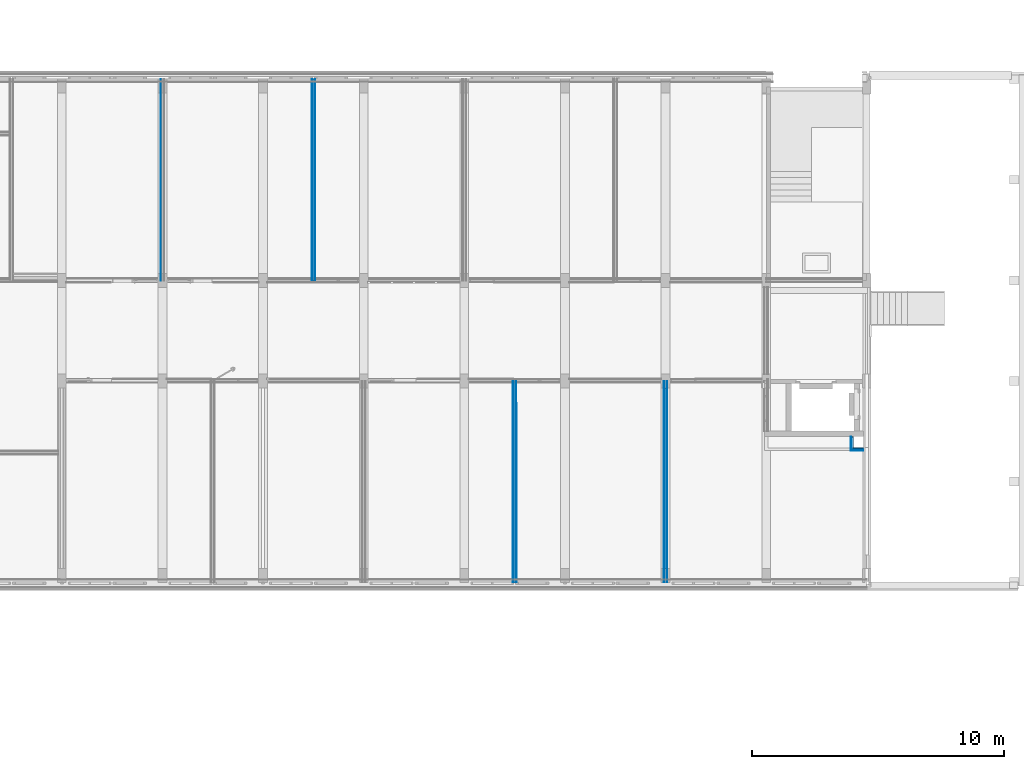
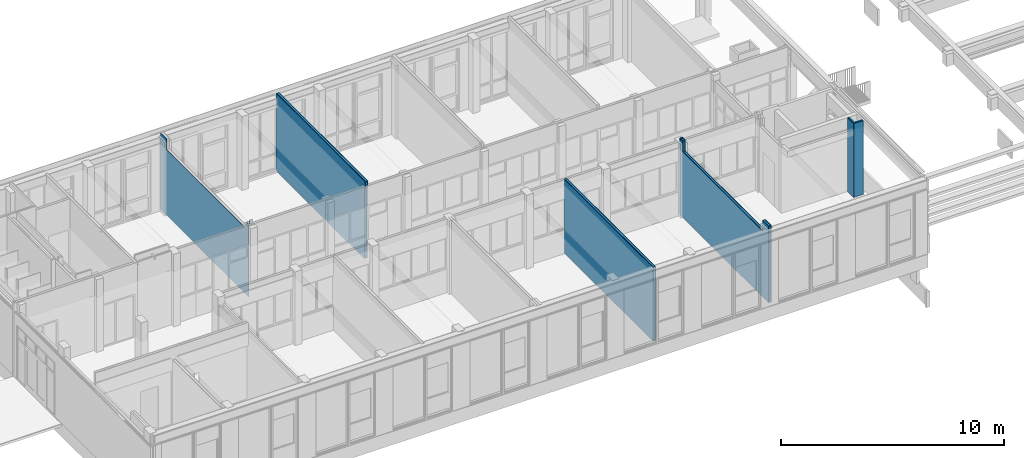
# One storey, part 25 of 54: 24 building element parts, 6 elements without a shape of their own.
"""IFC2X3 building model written with IfcOpenShell, lengths in millimetres."""

from ifc_helpers import new_model, entity, si_unit, converted_unit, derived_unit, money_unit, direction, frame, origin_with_axes, place, context, subcontext, project, spatial, faceted_brep, material, type_object, element, aggregate, save


model = new_model("IFC2X3")

# Units and contexts
model_context = context("Model", 3, precision=0.01, world=origin_with_axes(), true_north=direction((0.0, 1.0)))
body_context = subcontext(model_context, "Body", "Model", "MODEL_VIEW")
ifc_project = project(units=[si_unit("LENGTHUNIT", "METRE", prefix="MILLI"), si_unit("AREAUNIT", "SQUARE_METRE"), si_unit("VOLUMEUNIT", "CUBIC_METRE"), converted_unit("PLANEANGLEUNIT", "DEGREE", entity("IfcPlaneAngleMeasure", 0.0174532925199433), si_unit("PLANEANGLEUNIT", "RADIAN"), dimensions=[0, 0, 0, 0, 0, 0, 0]), money_unit("EUR"), converted_unit("TIMEUNIT", "Year", entity("IfcTimeMeasure", 31557600.0), si_unit("TIMEUNIT", "SECOND"), dimensions=[0, 0, 1, 0, 0, 0, 0]), si_unit("MASSUNIT", "GRAM", prefix="KILO"), si_unit("THERMODYNAMICTEMPERATUREUNIT", "DEGREE_CELSIUS"), si_unit("LUMINOUSINTENSITYUNIT", "LUMEN"), si_unit("ENERGYUNIT", "JOULE", prefix="MEGA"), derived_unit("THERMALCONDUCTANCEUNIT", [(si_unit("POWERUNIT", "WATT"), 1), (si_unit("LENGTHUNIT", "METRE"), -1), (si_unit("THERMODYNAMICTEMPERATUREUNIT", "KELVIN"), -1)]), derived_unit("SPECIFICHEATCAPACITYUNIT", [(si_unit("ENERGYUNIT", "JOULE"), 1), (si_unit("MASSUNIT", "GRAM", prefix="KILO"), -1), (si_unit("THERMODYNAMICTEMPERATUREUNIT", "KELVIN"), -1)]), derived_unit("MASSDENSITYUNIT", [(si_unit("MASSUNIT", "GRAM", prefix="KILO"), 1), (si_unit("VOLUMEUNIT", "CUBIC_METRE"), -1)])], contexts=[model_context])

# Site, building, storey
site_placement = place(None, origin_with_axes())
site = spatial("IfcSite", under=ifc_project, at=site_placement, Name="<site naam>", CompositionType="ELEMENT")
building_placement = place(site_placement, origin_with_axes())
building = spatial("IfcBuilding", under=site, at=building_placement, Name="<Naam gebouw>", CompositionType="ELEMENT")
storey_placement = place(building_placement, frame((0.0, 0.0, 8500.0), z_axis=(0.0, 0.0, 1.0), x_axis=(1.0, 0.0, 0.0)))
storey = spatial("IfcBuildingStorey", under=building, at=storey_placement, Name="02 2e verdieping", CompositionType="ELEMENT", Elevation=8500.0)

# Wall, building element parts
wall_type_1 = type_object("IfcWallType", Name="MS-01 GF 150 ECO DGS/2.100.2.A 150", PredefinedType="NOTDEFINED")
wall_1_placement = place(storey_placement, frame((37998.74866698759, 7998.481530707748, 0.0), z_axis=(0.0, 0.0, 1.0), x_axis=(0.0001545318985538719, -0.9999999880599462, 0.0)))
wall_1 = element("IfcWall", 1, at=wall_1_placement, inside=storey, type_object=wall_type_1, Name="22_Binnenwand_MS-01")
ifc_material_1 = material(Name="gipsplaat")
building_element_part_1_placement = place(wall_1_placement, origin_with_axes())
building_element_part_1 = element("IfcBuildingElementPart", 2, at=building_element_part_1_placement, material=ifc_material_1, Name="gipsplaat", context=body_context, shape_type="Brep", body=[
    faceted_brep([(0.0, 62.50000000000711, 4050.000014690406), (7998.48162621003, 62.50000000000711, 4050.000014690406), (7998.48162621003, 62.50000000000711, 0.0), (0.0, 62.50000000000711, 0.0), (7998.481626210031, 49.99999999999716, 4050.000014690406), (0.0, 50.00000000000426, 4050.000014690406), (7998.481626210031, 49.99999999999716, 0.0), (0.0, 50.00000000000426, 0.0)], [[[0, 1, 2, 3]], [[4, 1, 0, 5]], [[1, 4, 6, 2]], [[3, 2, 6, 7]], [[5, 0, 3, 7]], [[4, 5, 7, 6]]]),
])
ifc_material_2 = material(Name="isolatie_steenwol LSW")
building_element_part_2_placement = place(wall_1_placement, origin_with_axes())
building_element_part_2 = element("IfcBuildingElementPart", 3, at=building_element_part_2_placement, material=ifc_material_2, Name="isolatie_steenwol LSW", context=body_context, shape_type="Brep", body=[
    faceted_brep([(0.0, 50.00000000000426, 4050.000014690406), (7998.481626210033, 49.99999999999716, 4050.000014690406), (7998.481626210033, 49.99999999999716, 0.0), (0.0, 50.00000000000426, 0.0), (7998.481626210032, -49.99999999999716, 4050.000014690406), (0.0, -49.99999999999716, 4050.000014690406), (7998.481626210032, -49.99999999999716, 0.0), (0.0, -49.99999999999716, 0.0)], [[[0, 1, 2, 3]], [[4, 1, 0, 5]], [[1, 4, 6, 2]], [[3, 2, 6, 7]], [[5, 0, 3, 7]], [[4, 5, 7, 6]]]),
])
building_element_part_3_placement = place(wall_1_placement, origin_with_axes())
building_element_part_3 = element("IfcBuildingElementPart", 4, at=building_element_part_3_placement, material=ifc_material_1, Name="gipsplaat", context=body_context, shape_type="Brep", body=[
    faceted_brep([(0.0, -49.99999999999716, 4050.000014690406), (7998.481626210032, -49.99999999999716, 4050.000014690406), (7998.481626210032, -49.99999999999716, 0.0), (0.0, -49.99999999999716, 0.0), (7998.481626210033, -62.50000000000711, 4050.000014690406), (0.0, -62.5, 4050.000014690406), (7998.481626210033, -62.50000000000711, 0.0), (0.0, -62.5, 0.0)], [[[0, 1, 2, 3]], [[4, 1, 0, 5]], [[1, 4, 6, 2]], [[3, 2, 6, 7]], [[5, 0, 3, 7]], [[4, 5, 7, 6]]]),
])
building_element_part_4_placement = place(wall_1_placement, origin_with_axes())
building_element_part_4 = element("IfcBuildingElementPart", 5, at=building_element_part_4_placement, material=ifc_material_1, Name="gipsplaat", context=body_context, shape_type="Brep", body=[
    faceted_brep([(0.0, -62.5, 4050.000014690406), (7998.481626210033, -62.50000000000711, 4050.000014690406), (7998.481626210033, -62.50000000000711, 0.0), (0.0, -62.5, 0.0), (7998.481626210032, -75.00000000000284, 4050.000014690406), (0.0, -75.00000000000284, 4050.000014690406), (7998.481626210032, -75.00000000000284, 0.0), (0.0, -75.00000000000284, 0.0)], [[[0, 1, 2, 3]], [[4, 1, 0, 5]], [[1, 4, 6, 2]], [[3, 2, 6, 7]], [[5, 0, 3, 7]], [[4, 5, 7, 6]]]),
])

wall_2_placement = place(storey_placement, frame((43999.99785215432, 7999.408915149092, 0.0), z_axis=(0.0, 0.0, 1.0), x_axis=(7.827171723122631e-06, -0.9999999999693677, 0.0)))
wall_2 = element("IfcWall", 6, at=wall_2_placement, inside=storey, type_object=wall_type_1, Name="22_Binnenwand_MS-01")
building_element_part_5_placement = place(wall_2_placement, origin_with_axes())
building_element_part_5 = element("IfcBuildingElementPart", 7, at=building_element_part_5_placement, material=ifc_material_1, Name="gipsplaat", context=body_context, shape_type="Brep", body=[
    faceted_brep([(0.0, 62.50000000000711, 4200.000014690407), (0.0, 74.99999999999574, 4200.000014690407), (0.0, 74.99999999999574, 0.0), (0.0, 62.50000000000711, 0.0), (4.955652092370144, 75.00000000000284, 4200.000014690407), (4.955554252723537, 62.50000000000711, 4200.000014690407), (93.45555425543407, 62.5, 4200.000014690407), (93.45565209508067, 74.99999999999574, 4200.000014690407), (93.45565209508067, 74.99999999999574, 4135.38538922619), (109.455652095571, 74.99999999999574, 4135.38538922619), (109.455652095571, 74.99999999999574, 4200.000014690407), (274.409502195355, 74.99999999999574, 4200.000014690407), (274.409502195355, 74.99999999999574, 3610.000000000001), (7449.409502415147, 74.99999999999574, 3610.000000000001), (7449.409502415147, 74.99999999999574, 4200.000014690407), (7999.409502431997, 74.99999999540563, 4200.000014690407), (7999.408915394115, 75.00000000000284, 0.0), (7999.408915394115, 62.49999999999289, 0.0), (7999.40940459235, 62.49999999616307, 4200.000014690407), (7449.409404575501, 62.5, 4200.000014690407), (7449.409404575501, 62.5, 3610.000000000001), (274.4094043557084, 62.5, 3610.000000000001), (274.4094043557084, 62.5, 4200.000014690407), (109.4555542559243, 62.5, 4200.000014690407), (109.4555542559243, 62.5, 4135.38538922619), (93.45555425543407, 62.5, 4135.38538922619)], [[[0, 1, 2, 3]], [[4, 1, 0, 5, 6, 7]], [[1, 4, 7, 8, 9, 10, 11, 12, 13, 14, 15, 16, 2]], [[2, 16, 17, 3]], [[5, 0, 3, 17, 18, 19, 20, 21, 22, 23, 24, 25, 6]], [[8, 7, 6, 25]], [[25, 24, 9, 8]], [[24, 23, 10, 9]], [[22, 11, 10, 23]], [[21, 12, 11, 22]], [[20, 13, 12, 21]], [[19, 14, 13, 20]], [[18, 15, 14, 19]], [[16, 15, 18, 17]]]),
])
building_element_part_6_placement = place(wall_2_placement, origin_with_axes())
building_element_part_6 = element("IfcBuildingElementPart", 8, at=building_element_part_6_placement, material=ifc_material_2, Name="isolatie_steenwol LSW", context=body_context, shape_type="Brep", body=[
    faceted_brep([(0.0, 4.752147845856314, 4200.000014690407), (0.0, 50.00000000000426, 4200.000014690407), (0.0, 50.00000000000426, 0.0), (0.0, -49.99999999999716, 0.0), (0.0, -49.99999999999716, 4200.000014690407), (0.0, -4.747852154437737, 4200.000014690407), (0.0, -4.747852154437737, 4135.38538922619), (0.0, 4.752147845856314, 4135.38538922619), (4.955456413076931, 50.00000000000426, 4200.000014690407), (4.955102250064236, 4.752109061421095, 4200.000014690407), (93.45510224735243, 4.751416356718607, 4200.000014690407), (93.45545641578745, 50.00000000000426, 4200.000014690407), (93.45545641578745, 50.00000000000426, 4135.38538922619), (109.4554564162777, 49.99999999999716, 4135.38538922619), (109.4554564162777, 49.99999999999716, 4200.000014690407), (274.4093065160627, 49.99999999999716, 4200.000014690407), (274.4093065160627, 49.99999999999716, 3610.000000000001), (7449.409306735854, 49.99999999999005, 3610.000000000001), (7449.409306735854, 49.99999999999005, 4200.000014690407), (7999.409306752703, 49.99999999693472, 4200.000014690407), (7999.408915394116, 49.99999999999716, 0.0), (7999.408915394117, -50.00000000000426, 0.0), (4.954673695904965, -49.99999999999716, 4200.000014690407), (7999.408524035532, -49.99999999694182, 4200.000014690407), (7449.408524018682, -50.00000000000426, 4200.000014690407), (7449.408524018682, -50.00000000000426, 3610.000000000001), (274.4085237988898, -50.00000000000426, 3610.000000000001), (274.4085237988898, -50.00000000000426, 4200.000014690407), (109.4546736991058, -50.00000000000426, 4200.000014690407), (109.4546736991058, -50.00000000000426, 4135.38538922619), (93.4546736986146, -50.00000000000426, 4135.38538922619), (93.4546736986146, -50.00000000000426, 4200.000014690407), (4.955027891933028, -4.747890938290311, 4200.000014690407), (93.45502788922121, -4.748583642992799, 4200.000014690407), (93.45502788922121, -4.748583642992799, 4135.38538922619), (93.45510224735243, 4.751416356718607, 4135.38538922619)], [[[0, 1, 2, 3, 4, 5, 6, 7]], [[8, 1, 0, 9, 10, 11]], [[1, 8, 11, 12, 13, 14, 15, 16, 17, 18, 19, 20, 2]], [[20, 21, 3, 2]], [[22, 4, 3, 21, 23, 24, 25, 26, 27, 28, 29, 30, 31]], [[32, 5, 4, 22, 31, 33]], [[5, 32, 33, 34, 6]], [[30, 29, 13, 12, 35, 7, 6, 34]], [[9, 0, 7, 35, 10]], [[12, 11, 10, 35]], [[29, 28, 14, 13]], [[27, 15, 14, 28]], [[26, 16, 15, 27]], [[25, 17, 16, 26]], [[24, 18, 17, 25]], [[23, 19, 18, 24]], [[20, 19, 23, 21]], [[34, 33, 31, 30]]]),
])
building_element_part_7_placement = place(wall_2_placement, origin_with_axes())
building_element_part_7 = element("IfcBuildingElementPart", 9, at=building_element_part_7_placement, material=ifc_material_1, Name="gipsplaat", context=body_context, shape_type="Brep", body=[
    faceted_brep([(0.0, -62.5, 4200.000014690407), (0.0, -49.99999999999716, 4200.000014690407), (0.0, -49.99999999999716, 0.0), (0.0, -62.5, 0.0), (4.954673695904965, -49.99999999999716, 4200.000014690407), (4.954575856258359, -62.49999999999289, 4200.000014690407), (93.45457585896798, -62.5, 4200.000014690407), (93.4546736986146, -50.00000000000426, 4200.000014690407), (93.4546736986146, -50.00000000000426, 4135.38538922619), (109.4546736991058, -50.00000000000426, 4135.38538922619), (109.4546736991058, -50.00000000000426, 4200.000014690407), (274.4085237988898, -50.00000000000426, 4200.000014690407), (274.4085237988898, -50.00000000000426, 3610.000000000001), (7449.408524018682, -50.00000000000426, 3610.000000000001), (7449.408524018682, -50.00000000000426, 4200.000014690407), (7999.408524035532, -49.99999999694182, 4200.000014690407), (7999.408915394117, -50.00000000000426, 0.0), (7999.408915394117, -62.50000000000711, 0.0), (7999.408426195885, -62.49999999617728, 4200.000014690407), (7449.408426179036, -62.50000000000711, 4200.000014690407), (7449.408426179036, -62.50000000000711, 3610.000000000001), (274.4084259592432, -62.5, 3610.000000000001), (274.4084259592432, -62.5, 4200.000014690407), (109.4545758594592, -62.50000000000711, 4200.000014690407), (109.4545758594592, -62.50000000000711, 4135.38538922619), (93.45457585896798, -62.5, 4135.38538922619)], [[[0, 1, 2, 3]], [[4, 1, 0, 5, 6, 7]], [[1, 4, 7, 8, 9, 10, 11, 12, 13, 14, 15, 16, 2]], [[16, 17, 3, 2]], [[5, 0, 3, 17, 18, 19, 20, 21, 22, 23, 24, 25, 6]], [[8, 7, 6, 25]], [[25, 24, 9, 8]], [[24, 23, 10, 9]], [[22, 11, 10, 23]], [[21, 12, 11, 22]], [[20, 13, 12, 21]], [[19, 14, 13, 20]], [[18, 15, 14, 19]], [[16, 15, 18, 17]]]),
])
building_element_part_8_placement = place(wall_2_placement, origin_with_axes())
building_element_part_8 = element("IfcBuildingElementPart", 10, at=building_element_part_8_placement, material=ifc_material_1, Name="gipsplaat", context=body_context, shape_type="Brep", body=[
    faceted_brep([(0.0, -74.99999999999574, 4200.000014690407), (0.0, -62.5, 4200.000014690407), (0.0, -62.5, 0.0), (0.0, -74.99999999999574, 0.0), (4.954575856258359, -62.5, 4200.000014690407), (4.954478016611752, -74.99999999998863, 4200.000014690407), (93.45447801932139, -74.99999999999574, 4200.000014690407), (93.45457585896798, -62.5, 4200.000014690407), (93.45457585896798, -62.5, 4135.38538922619), (109.4545758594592, -62.50000000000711, 4135.38538922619), (109.4545758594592, -62.50000000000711, 4200.000014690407), (274.4084259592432, -62.50000000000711, 4200.000014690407), (274.4084259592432, -62.50000000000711, 3610.000000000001), (7449.408426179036, -62.50000000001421, 3610.000000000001), (7449.408426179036, -62.50000000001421, 4200.000014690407), (7999.408426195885, -62.49999999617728, 4200.000014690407), (7999.408915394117, -62.50000000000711, 0.0), (7999.408915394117, -75.00000000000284, 0.0), (7999.408328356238, -74.99999999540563, 4200.000014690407), (7449.408328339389, -75.00000000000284, 4200.000014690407), (7449.408328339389, -75.00000000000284, 3610.000000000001), (274.4083281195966, -74.99999999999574, 3610.000000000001), (274.4083281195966, -74.99999999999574, 4200.000014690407), (109.4544780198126, -74.99999999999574, 4200.000014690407), (109.4544780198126, -74.99999999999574, 4135.38538922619), (93.45447801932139, -74.99999999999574, 4135.38538922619)], [[[0, 1, 2, 3]], [[4, 1, 0, 5, 6, 7]], [[1, 4, 7, 8, 9, 10, 11, 12, 13, 14, 15, 16, 2]], [[2, 16, 17, 3]], [[5, 0, 3, 17, 18, 19, 20, 21, 22, 23, 24, 25, 6]], [[8, 7, 6, 25]], [[25, 24, 9, 8]], [[24, 23, 10, 9]], [[22, 11, 10, 23]], [[21, 12, 11, 22]], [[20, 13, 12, 21]], [[19, 14, 13, 20]], [[18, 15, 14, 19]], [[16, 15, 18, 17]]]),
])
building_element_part_9_placement = place(wall_2_placement, origin_with_axes())
building_element_part_9 = element("IfcBuildingElementPart", 11, at=building_element_part_9_placement, material=ifc_material_1, Name="gipsplaat", context=body_context, shape_type="Brep", body=[
    faceted_brep([(0.0, 50.00000000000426, 4200.000014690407), (0.0, 62.50000000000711, 4200.000014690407), (0.0, 62.50000000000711, 0.0), (0.0, 50.00000000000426, 0.0), (4.955554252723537, 62.50000000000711, 4200.000014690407), (4.955456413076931, 50.00000000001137, 4200.000014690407), (93.45545641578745, 50.00000000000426, 4200.000014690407), (93.45555425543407, 62.5, 4200.000014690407), (93.45555425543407, 62.5, 4135.38538922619), (109.4555542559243, 62.5, 4135.38538922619), (109.4555542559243, 62.5, 4200.000014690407), (274.4094043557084, 62.5, 4200.000014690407), (274.4094043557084, 62.5, 3610.000000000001), (7449.409404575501, 62.5, 3610.000000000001), (7449.409404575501, 62.5, 4200.000014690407), (7999.40940459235, 62.49999999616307, 4200.000014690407), (7999.408915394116, 62.49999999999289, 0.0), (7999.408915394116, 49.99999999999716, 0.0), (7999.409306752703, 49.99999999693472, 4200.000014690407), (7449.409306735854, 49.99999999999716, 4200.000014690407), (7449.409306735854, 49.99999999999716, 3610.000000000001), (274.4093065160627, 50.00000000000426, 3610.000000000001), (274.4093065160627, 50.00000000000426, 4200.000014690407), (109.4554564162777, 49.99999999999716, 4200.000014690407), (109.4554564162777, 49.99999999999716, 4135.38538922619), (93.45545641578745, 50.00000000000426, 4135.38538922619)], [[[0, 1, 2, 3]], [[4, 1, 0, 5, 6, 7]], [[1, 4, 7, 8, 9, 10, 11, 12, 13, 14, 15, 16, 2]], [[16, 17, 3, 2]], [[5, 0, 3, 17, 18, 19, 20, 21, 22, 23, 24, 25, 6]], [[8, 7, 6, 25]], [[25, 24, 9, 8]], [[24, 23, 10, 9]], [[22, 11, 10, 23]], [[21, 12, 11, 22]], [[20, 13, 12, 21]], [[19, 14, 13, 20]], [[18, 15, 14, 19]], [[16, 15, 18, 17]]]),
])
aggregate(wall_2, [building_element_part_5, building_element_part_6, building_element_part_7, building_element_part_8, building_element_part_9])

# Building element part
building_element_part_10_placement = place(wall_1_placement, origin_with_axes())
building_element_part_10 = element("IfcBuildingElementPart", 12, at=building_element_part_10_placement, material=ifc_material_1, Name="gipsplaat", context=body_context, shape_type="Brep", body=[
    faceted_brep([(0.0, 75.00000000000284, 4050.000014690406), (7998.481626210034, 74.99999999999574, 4050.000014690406), (7998.481626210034, 74.99999999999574, 0.0), (0.0, 75.00000000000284, 0.0), (7998.481626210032, 62.50000000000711, 4050.000014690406), (0.0, 62.50000000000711, 4050.000014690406), (7998.481626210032, 62.50000000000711, 0.0), (0.0, 62.50000000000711, 0.0)], [[[0, 1, 2, 3]], [[4, 1, 0, 5]], [[1, 4, 6, 2]], [[3, 2, 6, 7]], [[5, 0, 3, 7]], [[4, 5, 7, 6]]]),
])

aggregate(wall_1, [building_element_part_1, building_element_part_2, building_element_part_3, building_element_part_4, building_element_part_10])

# Wall, building element parts
wall_3_placement = place(storey_placement, frame((29999.99900653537, 19998.01354338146, 0.0), z_axis=(0.0, 0.0, 1.0), x_axis=(-1.068397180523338e-05, -0.9999999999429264, 0.0)))
wall_3 = element("IfcWall", 13, at=wall_3_placement, inside=storey, type_object=wall_type_1, Name="22_Binnenwand_MS-01")
building_element_part_11_placement = place(wall_3_placement, origin_with_axes())
building_element_part_11 = element("IfcBuildingElementPart", 14, at=building_element_part_11_placement, material=ifc_material_1, Name="gipsplaat", context=body_context, shape_type="Brep", body=[
    faceted_brep([(7923.012742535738, 74.99999999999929, 4049.999999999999), (7923.01274253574, 75.00000000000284, 0.0), (0.0, 74.99999999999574, 0.0), (0.0, 74.99999999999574, 4270.0), (7998.013543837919, 74.99999999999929, 4270.0), (7998.013543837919, 74.99999999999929, 4049.999999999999), (7923.012876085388, 62.50000000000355, 0.0), (7923.012876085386, 62.50000000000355, 4049.999999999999), (0.0, 62.5, 0.0), (0.0, 62.5, 4270.0), (7998.013543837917, 62.5, 4270.0), (7998.013543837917, 62.5, 4049.999999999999)], [[[0, 1, 2, 3, 4, 5]], [[6, 1, 0, 7]], [[2, 1, 6, 8]], [[3, 2, 8, 9]], [[3, 9, 10, 4]], [[10, 11, 5, 4]], [[11, 7, 0, 5]], [[6, 7, 11, 10, 9, 8]]]),
])
building_element_part_12_placement = place(wall_3_placement, origin_with_axes())
building_element_part_12 = element("IfcBuildingElementPart", 15, at=building_element_part_12_placement, material=ifc_material_1, Name="gipsplaat", context=body_context, shape_type="Brep", body=[
    faceted_brep([(7923.012876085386, 62.50000000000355, 4049.999999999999), (7923.012876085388, 62.50000000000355, 0.0), (0.0, 62.5, 0.0), (0.0, 62.5, 4270.0), (7998.013543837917, 62.5, 4270.0), (7998.013543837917, 62.5, 4049.999999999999), (7923.013009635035, 50.00000000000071, 0.0), (7923.013009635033, 50.00000000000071, 4049.999999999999), (0.0, 49.99999999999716, 0.0), (0.0, 49.99999999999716, 4270.0), (7998.013543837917, 50.00000000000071, 4270.0), (7998.013543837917, 50.00000000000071, 4049.999999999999)], [[[0, 1, 2, 3, 4, 5]], [[6, 1, 0, 7]], [[2, 1, 6, 8]], [[3, 2, 8, 9]], [[3, 9, 10, 4]], [[10, 11, 5, 4]], [[11, 7, 0, 5]], [[6, 7, 11, 10, 9, 8]]]),
])
building_element_part_13_placement = place(wall_3_placement, origin_with_axes())
building_element_part_13 = element("IfcBuildingElementPart", 16, at=building_element_part_13_placement, material=ifc_material_2, Name="isolatie_steenwol LSW", context=body_context, shape_type="Brep", body=[
    faceted_brep([(7923.013009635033, 50.00000000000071, 4049.999999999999), (7923.013009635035, 50.00000000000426, 0.0), (0.0, 49.99999999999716, 0.0), (0.0, 49.99999999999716, 4270.0), (7998.013543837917, 50.00000000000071, 4270.0), (7998.013543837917, 50.00000000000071, 4049.999999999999), (7923.014078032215, -50.00000000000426, 0.0), (7923.014078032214, -50.00000000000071, 4049.999999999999), (0.0, -50.00000000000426, 0.0), (0.0, -50.00000000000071, 4270.0), (7998.013543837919, -50.00000000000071, 4270.0), (7998.013543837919, -50.00000000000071, 4049.999999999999)], [[[0, 1, 2, 3, 4, 5]], [[6, 1, 0, 7]], [[2, 1, 6, 8]], [[3, 2, 8, 9]], [[3, 9, 10, 4]], [[10, 11, 5, 4]], [[11, 7, 0, 5]], [[6, 7, 11, 10, 9, 8]]]),
])
building_element_part_14_placement = place(wall_3_placement, origin_with_axes())
building_element_part_14 = element("IfcBuildingElementPart", 17, at=building_element_part_14_placement, material=ifc_material_1, Name="gipsplaat", context=body_context, shape_type="Brep", body=[
    faceted_brep([(7923.014211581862, -62.5, 4049.999999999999), (7923.014211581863, -62.50000000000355, 0.0), (0.0, -62.5, 0.0), (0.0, -62.5, 4270.0), (7998.013543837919, -62.5, 4270.0), (7998.013543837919, -62.5, 4049.999999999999), (7923.014345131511, -74.99999999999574, 0.0), (7923.01434513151, -74.99999999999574, 4049.999999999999), (0.0, -74.99999999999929, 0.0), (0.0, -74.99999999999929, 4270.0), (7998.013543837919, -74.99999999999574, 4270.0), (7998.013543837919, -74.99999999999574, 4049.999999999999)], [[[0, 1, 2, 3, 4, 5]], [[6, 1, 0, 7]], [[2, 1, 6, 8]], [[3, 2, 8, 9]], [[3, 9, 10, 4]], [[10, 11, 5, 4]], [[11, 7, 0, 5]], [[6, 7, 11, 10, 9, 8]]]),
])
building_element_part_15_placement = place(wall_3_placement, origin_with_axes())
building_element_part_15 = element("IfcBuildingElementPart", 18, at=building_element_part_15_placement, material=ifc_material_1, Name="gipsplaat", context=body_context, shape_type="Brep", body=[
    faceted_brep([(7923.014078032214, -50.00000000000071, 4049.999999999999), (7923.014078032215, -49.99999999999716, 0.0), (0.0, -50.00000000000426, 0.0), (0.0, -50.00000000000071, 4270.0), (7998.013543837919, -50.00000000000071, 4270.0), (7998.013543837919, -50.00000000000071, 4049.999999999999), (7923.014211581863, -62.49999999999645, 0.0), (7923.014211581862, -62.5, 4049.999999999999), (0.0, -62.5, 0.0), (0.0, -62.5, 4270.0), (7998.013543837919, -62.5, 4270.0), (7998.013543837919, -62.5, 4049.999999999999)], [[[0, 1, 2, 3, 4, 5]], [[6, 1, 0, 7]], [[2, 1, 6, 8]], [[3, 2, 8, 9]], [[3, 9, 10, 4]], [[10, 11, 5, 4]], [[11, 7, 0, 5]], [[6, 7, 11, 10, 9, 8]]]),
])
aggregate(wall_3, [building_element_part_11, building_element_part_12, building_element_part_13, building_element_part_14, building_element_part_15])

# Wall, building element part
wall_4_placement = place(storey_placement, frame((23999.98447987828, 20000.00000000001, 0.0), z_axis=(0.0, 0.0, 1.0), x_axis=(5.218114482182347e-06, -0.9999999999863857, 0.0)))
wall_4 = element("IfcWall", 19, at=wall_4_placement, inside=storey, type_object=wall_type_1, Name="22_Binnenwand_MS-01")
building_element_part_16_placement = place(wall_4_placement, origin_with_axes())
building_element_part_16 = element("IfcBuildingElementPart", 20, at=building_element_part_16_placement, material=ifc_material_1, Name="gipsplaat", context=body_context, shape_type="Brep", body=[
    faceted_brep([(7999.999673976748, -62.50000000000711, 4049.999999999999), (7999.999673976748, -62.50000000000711, 4270.0), (8009.999969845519, -62.50000000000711, 4270.0), (8009.999969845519, -62.50000000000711, 4049.999999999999), (7999.999608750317, -75.0000000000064, 4270.0), (7999.999608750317, -75.0000000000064, 4049.999999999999), (8009.999969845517, -75.0000000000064, 4270.0), (8009.999969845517, -75.0000000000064, 4049.999999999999)], [[[0, 1, 2, 3]], [[4, 1, 0, 5]], [[1, 4, 6, 2]], [[2, 6, 7, 3]], [[5, 0, 3, 7]], [[4, 5, 7, 6]]]),
    faceted_brep([(549.9996738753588, -62.50000000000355, 3610.000000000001), (7724.999673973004, -62.50000000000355, 3610.000000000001), (7724.999673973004, -62.50000000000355, 3990.0), (7924.999673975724, -62.50000000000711, 3990.0), (7924.999673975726, -62.50000000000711, 0.0), (0.0, -62.5, 0.0), (-0.0003261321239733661, -62.49999999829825, 4200.000014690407), (549.9996738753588, -62.50000000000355, 4200.000014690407), (549.9996086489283, -75.00000000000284, 3610.000000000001), (7724.999608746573, -75.00000000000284, 3610.000000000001), (7724.999608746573, -75.00000000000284, 3990.0), (7924.999608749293, -75.0000000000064, 3990.0), (7924.999608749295, -75.0000000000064, 0.0), (0.0, -75.00000000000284, 0.0), (-0.0003913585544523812, -74.99999999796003, 4200.000014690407), (549.9996086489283, -75.00000000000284, 4200.000014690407)], [[[0, 1, 2, 3, 4, 5, 6, 7]], [[1, 0, 8, 9]], [[2, 1, 9, 10]], [[3, 2, 10, 11]], [[3, 11, 12, 4]], [[13, 5, 4, 12]], [[14, 6, 5, 13]], [[7, 6, 14, 15]], [[0, 7, 15, 8]], [[15, 14, 13, 12, 11, 10, 9, 8]]]),
])
aggregate(wall_4, [building_element_part_16])

# Wall, building element parts
wall_type_2 = type_object("IfcWallType", Name="MS-04 GF 138 V/100.3.A 113", PredefinedType="NOTDEFINED")
wall_5_placement = place(storey_placement, frame((51465.00000000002, 5790.99999853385, 0.0), z_axis=(0.0, 0.0, 1.0), x_axis=(0.0, -1.0, 0.0)))
wall_5 = element("IfcWall", 21, at=wall_5_placement, inside=storey, type_object=wall_type_2, Name="22_Binnenwand_MS-04")
building_element_part_17_placement = place(wall_5_placement, origin_with_axes())
building_element_part_17 = element("IfcBuildingElementPart", 22, at=building_element_part_17_placement, material=ifc_material_2, Name="isolatie_steenwol LSW", context=body_context, shape_type="Brep", body=[
    faceted_brep([(0.0, -75.00000000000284, 4050.000014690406), (0.0, 0.0, 4050.000014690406), (0.0, 0.0, 0.0), (0.0, -75.00000000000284, 0.0), (525.0000000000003, 0.0, 4050.000014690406), (525.0000000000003, -75.00000000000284, 4050.000014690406), (525.0000000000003, 0.0, 0.0), (525.0000000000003, -75.00000000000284, 0.0)], [[[0, 1, 2, 3]], [[4, 1, 0, 5]], [[1, 4, 6, 2]], [[6, 7, 3, 2]], [[5, 0, 3, 7]], [[4, 5, 7, 6]]]),
])
building_element_part_18_placement = place(wall_5_placement, origin_with_axes())
building_element_part_18 = element("IfcBuildingElementPart", 23, at=building_element_part_18_placement, material=ifc_material_1, Name="gipsplaat", context=body_context, shape_type="Brep", body=[
    faceted_brep([(0.0, -87.49999999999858, 4050.000014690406), (0.0, -75.00000000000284, 4050.000014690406), (0.0, -75.00000000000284, 0.0), (0.0, -87.49999999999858, 0.0), (537.5000000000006, -75.00000000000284, 4050.000014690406), (537.5000000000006, -87.49999999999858, 4050.000014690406), (537.5000000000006, -75.00000000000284, 0.0), (537.5000000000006, -87.49999999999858, 0.0)], [[[0, 1, 2, 3]], [[4, 1, 0, 5]], [[1, 4, 6, 2]], [[6, 7, 3, 2]], [[5, 0, 3, 7]], [[4, 5, 7, 6]]]),
])
building_element_part_19_placement = place(wall_5_placement, origin_with_axes())
building_element_part_19 = element("IfcBuildingElementPart", 24, at=building_element_part_19_placement, material=ifc_material_1, Name="gipsplaat", context=body_context, shape_type="Brep", body=[
    faceted_brep([(0.0, -112.4999999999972, 4050.000014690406), (0.0, -100.0000000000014, 4050.000014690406), (0.0, -100.0000000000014, 0.0), (0.0, -112.4999999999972, 0.0), (562.5, -100.0000000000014, 4050.000014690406), (562.5, -112.4999999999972, 4050.000014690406), (562.5, -100.0000000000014, 0.0), (562.5, -112.4999999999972, 0.0)], [[[0, 1, 2, 3]], [[4, 1, 0, 5]], [[1, 4, 6, 2]], [[6, 7, 3, 2]], [[5, 0, 3, 7]], [[4, 5, 7, 6]]]),
])
building_element_part_20_placement = place(wall_5_placement, origin_with_axes())
building_element_part_20 = element("IfcBuildingElementPart", 25, at=building_element_part_20_placement, material=ifc_material_1, Name="gipsplaat", context=body_context, shape_type="Brep", body=[
    faceted_brep([(0.0, -100.0000000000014, 4050.000014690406), (0.0, -87.49999999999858, 4050.000014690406), (0.0, -87.49999999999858, 0.0), (0.0, -100.0000000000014, 0.0), (549.9999999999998, -87.49999999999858, 4050.000014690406), (549.9999999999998, -100.0000000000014, 4050.000014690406), (549.9999999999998, -87.49999999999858, 0.0), (549.9999999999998, -100.0000000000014, 0.0)], [[[0, 1, 2, 3]], [[4, 1, 0, 5]], [[1, 4, 6, 2]], [[6, 7, 3, 2]], [[5, 0, 3, 7]], [[4, 5, 7, 6]]]),
])
aggregate(wall_5, [building_element_part_17, building_element_part_18, building_element_part_19, building_element_part_20])

wall_6_placement = place(storey_placement, frame((51465.00000000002, 5340.999998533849, 0.0), z_axis=(0.0, 0.0, 1.0), x_axis=(1.0, 0.0, 0.0)))
wall_6 = element("IfcWall", 26, at=wall_6_placement, inside=storey, type_object=wall_type_2, Name="22_Binnenwand_MS-04")
building_element_part_21_placement = place(wall_6_placement, origin_with_axes())
building_element_part_21 = element("IfcBuildingElementPart", 27, at=building_element_part_21_placement, material=ifc_material_2, Name="isolatie_steenwol LSW", context=body_context, shape_type="Brep", body=[
    faceted_brep([(0.0, 0.0, 4050.000014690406), (400.0000000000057, 0.0, 4050.000014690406), (400.0000000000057, 0.0, 0.0), (0.0, 0.0, 0.0), (400.0000000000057, -74.99999999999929, 4050.000014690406), (0.0, -74.99999999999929, 4050.000014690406), (400.0000000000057, -75.00000000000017, 0.0), (0.0, -75.00000000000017, 0.0)], [[[0, 1, 2, 3]], [[4, 1, 0, 5]], [[1, 4, 6, 2]], [[3, 2, 6, 7]], [[5, 0, 3, 7]], [[4, 5, 7, 6]]]),
])
building_element_part_22_placement = place(wall_6_placement, origin_with_axes())
building_element_part_22 = element("IfcBuildingElementPart", 28, at=building_element_part_22_placement, material=ifc_material_1, Name="gipsplaat", context=body_context, shape_type="Brep", body=[
    faceted_brep([(-100.0000000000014, -99.99999999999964, 4050.000014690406), (400.0000000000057, -99.99999999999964, 4050.000014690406), (400.0000000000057, -99.99999999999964, 0.0), (-100.0000000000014, -99.99999999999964, 0.0), (400.0000000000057, -112.4999999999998, 4050.000014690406), (-100.0000000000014, -112.4999999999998, 4050.000014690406), (400.0000000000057, -112.4999999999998, 0.0), (-100.0000000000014, -112.4999999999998, 0.0)], [[[0, 1, 2, 3]], [[4, 1, 0, 5]], [[1, 4, 6, 2]], [[3, 2, 6, 7]], [[5, 0, 3, 7]], [[4, 5, 7, 6]]]),
])
building_element_part_23_placement = place(wall_6_placement, origin_with_axes())
building_element_part_23 = element("IfcBuildingElementPart", 29, at=building_element_part_23_placement, material=ifc_material_1, Name="gipsplaat", context=body_context, shape_type="Brep", body=[
    faceted_brep([(-87.49999999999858, -87.49999999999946, 4050.000014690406), (400.0000000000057, -87.49999999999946, 4050.000014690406), (400.0000000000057, -87.50000000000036, 0.0), (-87.49999999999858, -87.50000000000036, 0.0), (400.0000000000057, -99.99999999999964, 4050.000014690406), (-87.49999999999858, -99.99999999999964, 4050.000014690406), (400.0000000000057, -99.99999999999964, 0.0), (-87.49999999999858, -99.99999999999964, 0.0)], [[[0, 1, 2, 3]], [[4, 1, 0, 5]], [[1, 4, 6, 2]], [[3, 2, 6, 7]], [[5, 0, 3, 7]], [[4, 5, 7, 6]]]),
])
building_element_part_24_placement = place(wall_6_placement, origin_with_axes())
building_element_part_24 = element("IfcBuildingElementPart", 30, at=building_element_part_24_placement, material=ifc_material_1, Name="gipsplaat", context=body_context, shape_type="Brep", body=[
    faceted_brep([(-75.00000000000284, -75.00000000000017, 4050.000014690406), (400.0000000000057, -74.99999999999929, 4050.000014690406), (400.0000000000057, -75.00000000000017, 0.0), (-75.00000000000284, -75.00000000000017, 0.0), (400.0000000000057, -87.49999999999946, 4050.000014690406), (-75.00000000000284, -87.49999999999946, 4050.000014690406), (400.0000000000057, -87.50000000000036, 0.0), (-75.00000000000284, -87.50000000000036, 0.0)], [[[0, 1, 2, 3]], [[4, 1, 0, 5]], [[1, 4, 6, 2]], [[3, 2, 6, 7]], [[5, 0, 3, 7]], [[4, 5, 7, 6]]]),
])
aggregate(wall_6, [building_element_part_21, building_element_part_22, building_element_part_23, building_element_part_24])

save(model, "model.ifc")
